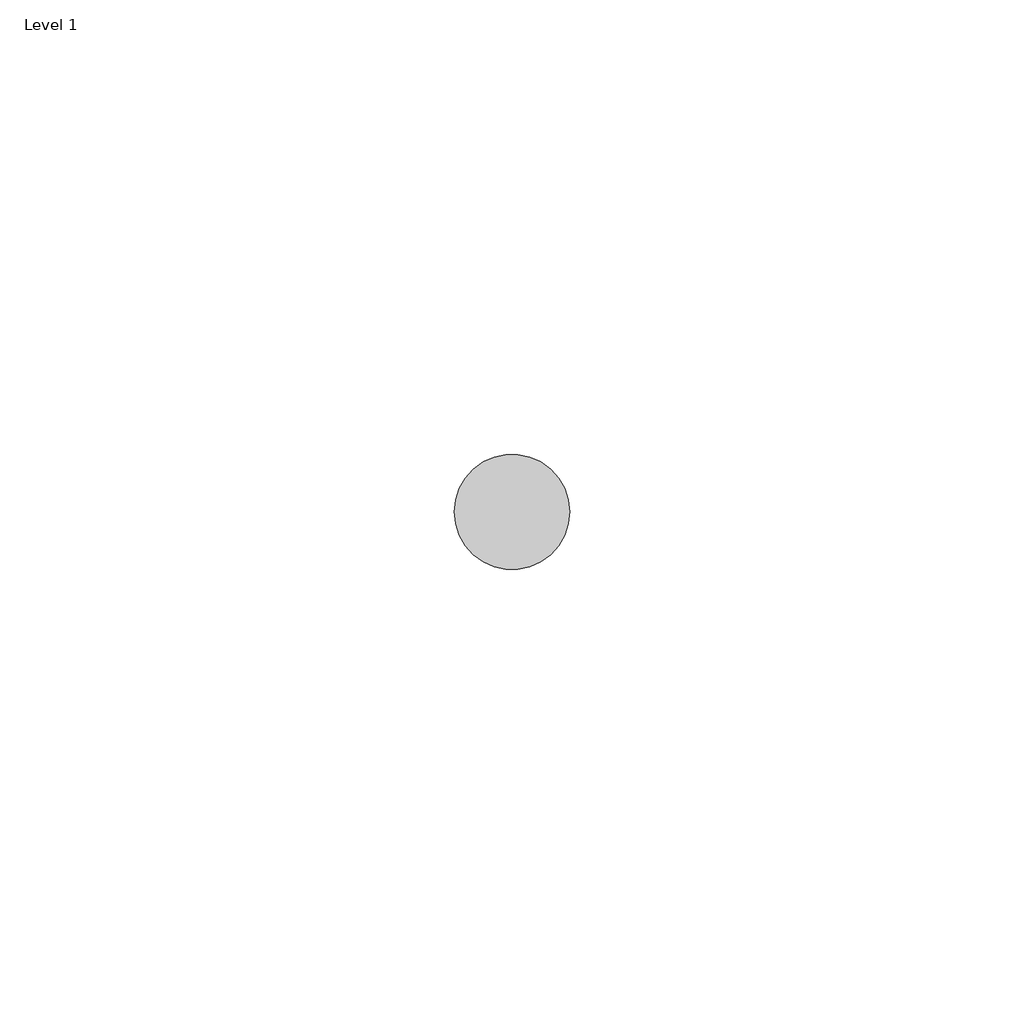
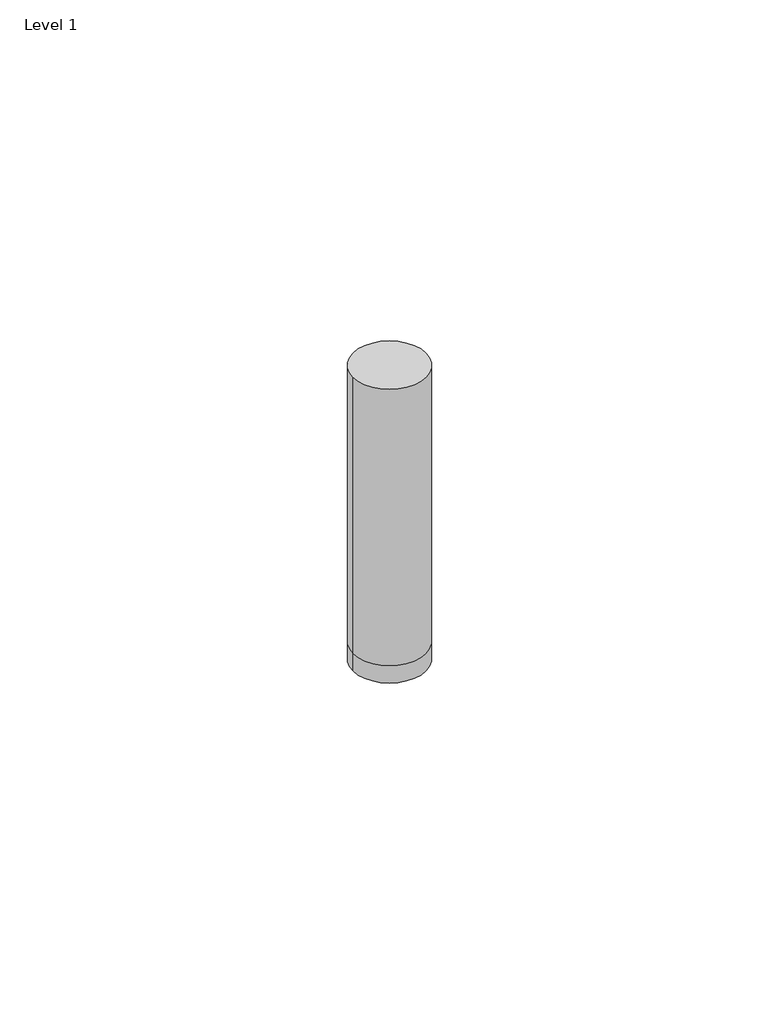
# One storey: 1 fire suppression terminal.
"""IFC4 building model written with IfcOpenShell, lengths in millimetres."""

from ifc_helpers import new_model, si_unit, origin, place, context, project, spatial, transform, mapped, element, save
from components import fire_suppression_terminal_ccbc3d6c

model = new_model("IFC4")

# Units and contexts
model_context = context("Model", 3, world=origin())
ifc_project = project(units=[si_unit("LENGTHUNIT", "METRE", prefix="MILLI")], contexts=[model_context])

# Site, building, storey
site = spatial("IfcSite", under=ifc_project)
building = spatial("IfcBuilding", under=site)
storey = spatial("IfcBuildingStorey", under=building, Name="Level 1", Elevation=0.0)

# Fire suppression terminal
placement = place(None, origin())
fire_suppression_terminal_shape = fire_suppression_terminal_ccbc3d6c(model_context)
element("IfcFireSuppressionTerminal", 1, ObjectType="Sprinkler - Pendent - Hosted : 1/2\" Pendent", at=placement, inside=storey, context=model_context, shape_type="MappedRepresentation", body=[
    mapped(fire_suppression_terminal_shape, transform((-35078.590324, 15917.83529, 0.0), x_axis=(1.0, 0.0, 0.0), y_axis=(0.0, 1.0, 0.0), z_axis=(0.0, 0.0, 1.0))),
])

save(model, "model.ifc")
